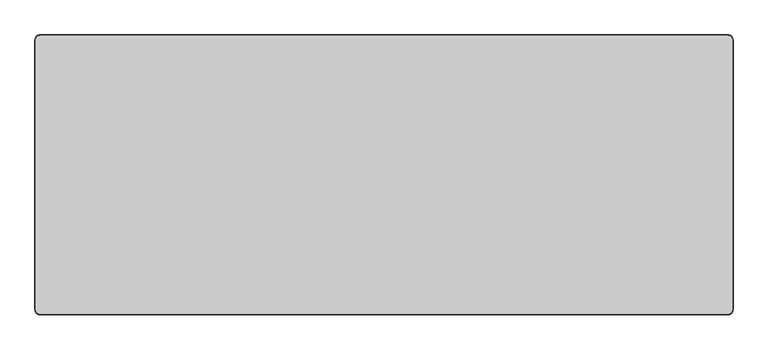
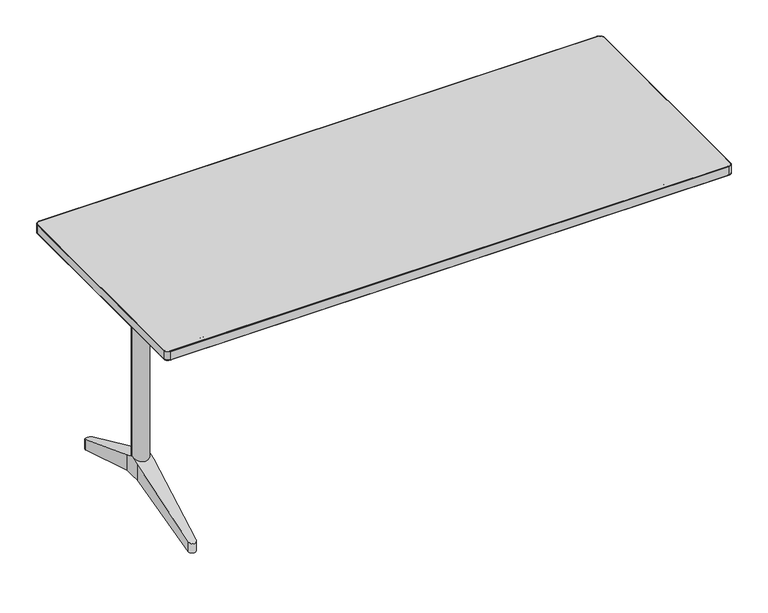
"""IFC4 building model written with IfcOpenShell, lengths in millimetres: furniture geometry."""

from ifc_helpers import new_model, si_unit, point, frame, frame_2d, origin, place, context, project, spatial, polyline, circle_curve, ellipse_curve, trimmed, segment, composite_curve, outline, extrude, faceted_brep, source, transform, mapped, element, save
from ifc_brep_helpers import plane_surface, cylinder_surface, revolved_surface, advanced_brep


def furniture_c3fd8c45(model_context):
    return source(origin(), model_context, "Body", "SolidModel", [
        advanced_brep(
        [(-632.7657234, 148.4511551, 210.360006), (-632.7657234, 125.9511544, 219.9000124), (-632.7657234, 103.4511538, 210.360006), (-632.7657234, 103.4511538, 165.9000199), (-632.7657234, 125.9511544, 165.9000199), (-632.7657234, 148.4511551, 165.9000199), (-677.7657383, 148.4511551, 165.9000199), (-677.7657383, 125.9511544, 165.9000199), (-677.7657383, 103.4511538, 165.9000199), (-677.7657383, 103.4511538, 210.360006), (-677.7657383, 125.9511544, 219.9000124), (-677.7657383, 148.4511551, 210.360006), (-645.227182, -113.0675149, 88.8098467), (-665.3042073, -113.0675149, 88.8098467), (-645.2821683, -114.0242798, 118.1504308), (-665.2492204, -114.0242831, 118.1504294), (-645.2821683, -114.0242798, 88.8098467), (-665.2492204, -114.0242831, 88.8098467), (-645.227182, 364.9698238, 88.8098467), (-665.3042073, 364.9698238, 88.8098467), (-665.2492204, 365.926592, 88.8098467), (-645.2821683, 365.9265887, 88.8098467), (-645.2821683, 365.9265887, 118.1504308), (-665.2492204, 365.926592, 118.1504294)],
        [
            (0, 1),
            (1, 2),
            (2, 3),
            (3, 4),
            (4, 5),
            (5, 0),
            (6, 7),
            (7, 8),
            (8, 9),
            (9, 10),
            (10, 11),
            (11, 6),
            (3, 8),
            (7, 4),
            (6, 5),
            (12, 13),
            (13, 8),
            (3, 12),
            (14, 2),
            (1, 10),
            (9, 15),
            (15, 14, ellipse_curve(frame((-655.2656945, -113.4505156, 118.3937069), z_axis=(0.0, -0.39036065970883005, 0.9206620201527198), x_axis=(0.0, -0.9206620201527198, -0.3903606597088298)), 10.8617492, 10.0)),
            (12, 16),
            (16, 17, circle_curve(frame((-655.2656945, -113.4505156, 88.8098467), z_axis=(0.0, 0.0, -1.0), x_axis=(1.0, 0.0, 0.0)), 10.0)),
            (17, 13),
            (18, 19),
            (19, 20),
            (20, 21, circle_curve(frame((-655.2656945, 365.3528245, 88.8098467), z_axis=(0.0, 0.0, -1.0), x_axis=(1.0, 0.0, 0.0)), 10.0)),
            (21, 18),
            (0, 22),
            (22, 23, ellipse_curve(frame((-655.2656945, 365.3528245, 118.3937069), z_axis=(0.0, 0.39036065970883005, 0.9206620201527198), x_axis=(0.0, 0.9206620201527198, -0.3903606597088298)), 10.8617492, 10.0)),
            (23, 11),
            (18, 5),
            (6, 19),
            (21, 22),
            (23, 20),
            (14, 16),
            (15, 17),
        ],
        [
            plane_surface(frame((-632.7657234, 148.4511551, 210.360006), z_axis=(1.0, 0.0, 0.0), x_axis=(0.0, -0.9206619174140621, 0.3903609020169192))),
            plane_surface(frame((-677.7657383, 148.4511551, 210.360006), z_axis=(-1.0, 0.0, 0.0), x_axis=(0.0, 0.9206619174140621, -0.3903609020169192))),
            plane_surface(frame((-632.7657234, 103.4511538, 165.9000199), z_axis=(0.0, 0.0, -1.0), x_axis=(-1.0, 0.0, 0.0))),
            plane_surface(frame((-632.7657234, 125.9511544, 165.9000199), z_axis=(0.0, 0.0, -1.0), x_axis=(-1.0, 0.0, 0.0))),
            plane_surface(frame((-632.7657234, -113.0675149, 88.8098467), z_axis=(0.0, 0.33541814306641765, -0.9420693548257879), x_axis=(-1.0, 0.0, 0.0))),
            plane_surface(frame((-632.7657234, 103.4511538, 210.360006), z_axis=(0.0, -0.39036065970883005, 0.9206620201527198), x_axis=(-1.0, 0.0, 0.0))),
            plane_surface(frame((-632.7657234, -124.5346363, 88.8098467), z_axis=(0.0, 0.0, -1.0), x_axis=(-1.0, 0.0, 0.0))),
            plane_surface(frame((-632.7657234, 364.9698238, 88.8098467), z_axis=(0.0, 0.0, -1.0), x_axis=(-1.0, 0.0, 0.0))),
            plane_surface(frame((-632.7657234, 376.4369452, 113.6940401), z_axis=(0.0, 0.39036065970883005, 0.9206620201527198), x_axis=(-1.0, 0.0, 0.0))),
            plane_surface(frame((-632.7657234, 148.4511551, 165.9000199), z_axis=(0.0, -0.33541814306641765, -0.9420693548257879), x_axis=(-1.0, 0.0, 0.0))),
            plane_surface(frame((-645.2821683, 365.9265887, 234.8098558), z_axis=(0.9983526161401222, 0.0573764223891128, 0.0), x_axis=(0.0, 0.0, -1.0))),
            plane_surface(frame((-677.7478455, 148.4511551, 234.8098558), z_axis=(-0.9983525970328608, 0.0573767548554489, 0.0), x_axis=(0.0, 0.0, -1.0))),
            cylinder_surface(frame((-655.2656945, 365.3528245, 75.8098498), z_axis=(0.0, 0.0, -1.0), x_axis=(1.0, 0.0, 0.0)), 10.0),
            plane_surface(frame((-632.7836161, 103.4511538, 234.8098558), z_axis=(0.9983526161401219, -0.05737642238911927, 0.0), x_axis=(0.0, 0.0, -1.0))),
            cylinder_surface(frame((-655.2656945, -113.4505156, -14.1901527), z_axis=(0.0, 0.0, -1.0), x_axis=(1.0, 0.0, 0.0)), 10.0),
            plane_surface(frame((-665.2492204, -114.0242831, 234.8098558), z_axis=(-0.9983525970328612, -0.05737675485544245, 0.0), x_axis=(0.0, 0.0, -1.0))),
        ],
        [
            (0, [[1, 2, 3, 4, 5, 6]]),
            (1, [[7, 8, 9, 10, 11, 12]]),
            (2, [[-4, 13, -8, 14]]),
            (3, [[-5, -14, -7, 15]]),
            (4, [[16, 17, -13, 18]]),
            (5, [[19, -2, 20, -10, 21, 22]]),
            (6, [[-16, 23, 24, 25]]),
            (7, [[26, 27, 28, 29]]),
            (8, [[30, 31, 32, -11, -20, -1]]),
            (9, [[-26, 33, -15, 34]]),
            (10, [[35, -30, -6, -33, -29]]),
            (11, [[36, -27, -34, -12, -32]]),
            (12, [[-35, -28, -36, -31]]),
            (13, [[37, -23, -18, -3, -19]]),
            (14, [[-37, -22, 38, -24]]),
            (15, [[-38, -21, -9, -17, -25]]),
        ],
    ),
        extrude(outline(composite_curve([segment(trimmed(circle_curve(frame_2d((-655.2657309, 125.9511544)), 22.0), [point((-677.2657309, 125.9511544))], [point((-633.2657309, 125.9511544))], False, "CARTESIAN"), True, "CONTINUOUS"), segment(trimmed(circle_curve(frame_2d((-655.2657309, 125.9511544)), 22.0), [point((-633.2657309, 125.9511544))], [point((-677.2657309, 125.9511544))], False, "CARTESIAN"), True, "CONTINUOUS")], self_intersect=False)), frame((0.0, 0.0, 165.9000199), z_axis=(0.0, 0.0, 1.0), x_axis=(1.0, 0.0, 0.0)), (0.0, 0.0, 1.0), 509.3499944),
        extrude(outline(polyline([(-687.0000109, 327.7511544), (-627.0000395, 327.7511544), (-627.0000395, -75.8488456), (-687.0000109, -75.8488456), (-687.0000109, 327.7511544)]), holes=[polyline([(-629.0000628, 65.9511581), (-629.0000628, 175.9511571), (-684.9999876, 175.9511571), (-684.9999876, 65.9511581), (-629.0000628, 65.9511581)])]), frame((0.0, 0.0, 684.9999762), z_axis=(0.0, 0.0, 1.0), x_axis=(1.0, 0.0, 0.0)), (0.0, 0.0, 1.0), 20.2500238),
        faceted_brep([(687.0000109, 175.9511571, 705.25), (684.9999876, 175.9511571, 705.25), (684.9999876, 65.9511581, 705.25), (687.0000109, 65.9511581, 705.25), (687.0000109, 175.9511571, 684.9999762), (687.0000109, 65.9511581, 684.9999762), (684.9999876, 65.9511581, 684.9999762), (684.9999876, 175.9511571, 684.9999762), (687.0000109, 65.9511581, 705.0), (687.0000109, -75.8488456, 705.0), (687.0000109, -75.8488456, 685.2499762), (687.0000109, 65.9511581, 685.2499762), (687.0000109, 175.9511571, 685.2499762), (687.0000109, 327.7511544, 685.2499762), (687.0000109, 327.7511544, 705.0), (687.0000109, 175.9511571, 705.0), (684.9999876, 65.9511581, 705.0), (684.9999876, 65.9511581, 685.2499762), (684.9999876, 175.9511571, 705.0), (684.9999876, 175.9511571, 685.2499762), (627.0000395, 327.7511544, 705.0), (627.0000395, 175.9511571, 705.0), (629.0000628, 175.9511571, 705.0), (627.0000395, 65.9511581, 705.0), (627.0000395, -75.8488456, 705.0), (629.0000628, 65.9511581, 705.0), (627.0000395, -75.8488456, 685.2499762), (627.0000395, 65.9511581, 685.2499762), (629.0000628, 65.9511581, 685.2499762), (627.0000395, 175.9511571, 685.2499762), (627.0000395, 327.7511544, 685.2499762), (629.0000628, 175.9511571, 685.2499762), (627.0000395, 175.9511571, 684.9999762), (627.0000395, 65.9511581, 684.9999762), (627.0000395, 65.9511581, 705.25), (627.0000395, 175.9511571, 705.25), (629.0000628, 65.9511581, 705.25), (629.0000628, 175.9511571, 705.25), (629.0000628, 175.9511571, 684.9999762), (629.0000628, 65.9511581, 684.9999762)], [[[0, 1, 2, 3]], [[4, 5, 6, 7]], [[0, 3, 8, 9, 10, 11, 5, 4, 12, 13, 14, 15]], [[3, 2, 16, 8]], [[6, 5, 11, 17]], [[1, 0, 15, 18]], [[4, 7, 19, 12]], [[2, 1, 18, 19, 7, 6, 17, 16]], [[15, 14, 20, 21, 22, 18]], [[23, 24, 9, 8, 16, 25]], [[11, 10, 26, 27, 28, 17]], [[29, 30, 13, 12, 19, 31]], [[20, 14, 13, 30]], [[21, 20, 30, 29, 32, 33, 27, 26, 24, 23, 34, 35]], [[9, 24, 26, 10]], [[16, 17, 28, 25]], [[19, 18, 22, 31]], [[35, 34, 36, 37]], [[32, 38, 39, 33]], [[36, 34, 23, 25]], [[33, 39, 28, 27]], [[35, 37, 22, 21]], [[38, 32, 29, 31]], [[37, 36, 25, 28, 39, 38, 31, 22]]]),
        extrude(outline(polyline([(-632.7657234, 75.9511563), (-677.7657383, 75.9511563), (-677.7657383, 155.951156), (-632.7657234, 155.951156), (-632.7657234, 75.9511563)])), frame((0.0, 0.0, 675.2500143), z_axis=(0.0, 0.0, 1.0), x_axis=(1.0, 0.0, 0.0)), (0.0, 0.0, 1.0), 29.9999857),
        extrude(outline(polyline([(632.7657234, 75.9511563), (632.7657234, 155.951156), (677.7657383, 155.951156), (677.7657383, 75.9511563), (632.7657234, 75.9511563)])), frame((0.0, 0.0, 675.2500143), z_axis=(0.0, 0.0, 1.0), x_axis=(1.0, 0.0, 0.0)), (0.0, 0.0, 1.0), 29.9999857),
        extrude(outline(composite_curve([segment(trimmed(circle_curve(frame_2d((-655.2657309, 125.9511544)), 22.0), [point((-641.9334407, 108.4511533))], [point((-641.9334407, 143.4511556))], True, "CARTESIAN"), True, "CONTINUOUS"), segment(polyline([(-641.9334407, 143.4511556), (641.9334407, 143.4511556)]), True, "CONTINUOUS"), segment(trimmed(circle_curve(frame_2d((655.2657309, 125.9511544)), 22.0), [point((641.9334407, 143.4511556))], [point((641.9334407, 108.4511533))], True, "CARTESIAN"), True, "CONTINUOUS"), segment(polyline([(641.9334407, 108.4511533), (-641.9334407, 108.4511533)]), True, "CONTINUOUS")], self_intersect=False)), frame((0.0, 0.0, 625.2500143), z_axis=(0.0, 0.0, 1.0), x_axis=(1.0, 0.0, 0.0)), (0.0, 0.0, 1.0), 50.0),
        advanced_brep(
        [(-627.0000395, -98.8488456, 676.6414874), (-627.0000395, -98.8488456, 696.6414874), (627.0000395, -98.8488456, 676.6414874), (627.0000395, -98.8488456, 696.6414874), (-619.9107653, -98.8488456, 676.6414874), (-618.463829, -98.8488456, 696.6414874), (-564.9107794, -98.8488456, 668.641467), (-563.4638431, -98.8488456, 688.641467), (564.910768, -98.8488456, 668.641467), (563.4638316, -98.8488456, 688.641467), (619.9107539, -98.8488456, 676.6414874), (618.4638175, -98.8488456, 696.6414874)],
        [
            (0, 1, circle_curve(frame((-627.0000395, -98.8488456, 686.6414874), z_axis=(-1.0, 0.0, 0.0), x_axis=(0.0, 0.0, 1.0)), 10.0)),
            (1, 0, circle_curve(frame((-627.0000395, -98.8488456, 686.6414874), z_axis=(-1.0, 0.0, 0.0), x_axis=(0.0, 0.0, 1.0)), 10.0)),
            (2, 3, circle_curve(frame((627.0000395, -98.8488456, 686.6414874), z_axis=(1.0, 0.0, 0.0), x_axis=(0.0, 0.0, 1.0)), 10.0)),
            (3, 2, circle_curve(frame((627.0000395, -98.8488456, 686.6414874), z_axis=(1.0, 0.0, 0.0), x_axis=(0.0, 0.0, 1.0)), 10.0)),
            (0, 4),
            (4, 5, ellipse_curve(frame((-619.1872971, -98.8488456, 686.6414874), z_axis=(-0.9973931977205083, 0.0, 0.07215822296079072), x_axis=(-0.07215822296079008, 0.0, -0.9973931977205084)), 10.0261362, 10.0)),
            (5, 1),
            (5, 4, ellipse_curve(frame((-619.1872971, -98.8488456, 686.6414874), z_axis=(-0.9973931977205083, 0.0, 0.07215822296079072), x_axis=(-0.07215822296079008, 0.0, -0.9973931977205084)), 10.0261362, 10.0)),
            (4, 6),
            (6, 7, ellipse_curve(frame((-564.1873113, -98.8488456, 678.641467), z_axis=(-0.9973931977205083, 0.0, 0.07215822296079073), x_axis=(0.07215822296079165, 0.0, 0.9973931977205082)), 10.0261362, 10.0)),
            (7, 5),
            (7, 6, ellipse_curve(frame((-564.1873113, -98.8488456, 678.641467), z_axis=(-0.9973931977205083, 0.0, 0.07215822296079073), x_axis=(0.07215822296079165, 0.0, 0.9973931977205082)), 10.0261362, 10.0)),
            (6, 8),
            (8, 9, ellipse_curve(frame((564.1872998, -98.8488456, 678.641467), z_axis=(-0.9973931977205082, 0.0, -0.07215822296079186), x_axis=(-0.07215822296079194, 0.0, 0.9973931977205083)), 10.0261362, 10.0)),
            (9, 7),
            (9, 8, ellipse_curve(frame((564.1872998, -98.8488456, 678.641467), z_axis=(-0.9973931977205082, 0.0, -0.07215822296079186), x_axis=(-0.07215822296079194, 0.0, 0.9973931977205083)), 10.0261362, 10.0)),
            (8, 10),
            (10, 11, ellipse_curve(frame((619.1872857, -98.8488456, 686.6414874), z_axis=(-0.9973931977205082, 0.0, -0.07215822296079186), x_axis=(0.07215822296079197, 0.0, -0.9973931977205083)), 10.0261362, 10.0)),
            (11, 9),
            (11, 10, ellipse_curve(frame((619.1872857, -98.8488456, 686.6414874), z_axis=(-0.9973931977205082, 0.0, -0.07215822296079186), x_axis=(0.07215822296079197, 0.0, -0.9973931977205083)), 10.0261362, 10.0)),
            (10, 2),
            (3, 11),
        ],
        [
            plane_surface(frame((-627.0000395, -75.8488456, 716.8750406), z_axis=(-1.0, 0.0, 0.0), x_axis=(0.0, -1.0, 0.0))),
            plane_surface(frame((627.0000395, -75.8488456, 716.8750406), z_axis=(1.0, 0.0, 0.0), x_axis=(0.0, -1.0, 0.0))),
            cylinder_surface(frame((-627.0000395, -98.8488456, 686.6414874), z_axis=(-1.0, 0.0, 0.0), x_axis=(0.0, 0.0, 1.0)), 10.0),
            cylinder_surface(frame((-621.3518208, -98.8488456, 686.9563281), z_axis=(-0.9895863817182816, 0.0, 0.14394024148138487), x_axis=(0.14394024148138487, 0.0, 0.9895863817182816)), 10.0),
            cylinder_surface(frame((-562.0000099, -98.8488456, 678.641467), z_axis=(-1.0, 0.0, 0.0), x_axis=(0.0, 0.0, 1.0)), 10.0),
            cylinder_surface(frame((566.3518234, -98.8488456, 678.9563077), z_axis=(-0.9895863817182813, 0.0, -0.1439402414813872), x_axis=(-0.1439402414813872, 0.0, 0.9895863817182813)), 10.0),
            cylinder_surface(frame((616.9999844, -98.8488456, 686.6414874), z_axis=(-1.0, 0.0, 0.0), x_axis=(0.0, 0.0, 1.0)), 10.0),
        ],
        [
            (0, [[1, 2]]),
            (1, [[3, 4]]),
            (2, [[-1, 5, 6, 7]]),
            (2, [[-2, -7, 8, -5]]),
            (3, [[-6, 9, 10, 11]]),
            (3, [[-8, -11, 12, -9]]),
            (4, [[-10, 13, 14, 15]]),
            (4, [[-12, -15, 16, -13]]),
            (5, [[-14, 17, 18, 19]]),
            (5, [[-16, -19, 20, -17]]),
            (6, [[-18, 21, -4, 22]]),
            (6, [[-20, -22, -3, -21]]),
        ],
    ),
        extrude(outline(composite_curve([segment(trimmed(circle_curve(frame_2d((-752.0, 420.7511544)), 10.0), [point((-762.0, 420.7511544))], [point((-752.0, 430.7511544))], False, "CARTESIAN"), True, "CONTINUOUS"), segment(polyline([(-752.0, 430.7511544), (752.0, 430.7511544)]), True, "CONTINUOUS"), segment(trimmed(circle_curve(frame_2d((752.0, 420.7511544)), 10.0), [point((752.0, 430.7511544))], [point((762.0, 420.7511544))], False, "CARTESIAN"), True, "CONTINUOUS"), segment(polyline([(762.0, 420.7511544), (762.0, -168.8488456)]), True, "CONTINUOUS"), segment(trimmed(circle_curve(frame_2d((752.0, -168.8488456)), 10.0), [point((762.0, -168.8488456))], [point((752.0, -178.8488456))], False, "CARTESIAN"), True, "CONTINUOUS"), segment(polyline([(752.0, -178.8488456), (-752.0, -178.8488456)]), True, "CONTINUOUS"), segment(trimmed(circle_curve(frame_2d((-752.0, -168.8488456)), 10.0), [point((-752.0, -178.8488456))], [point((-762.0, -168.8488456))], False, "CARTESIAN"), True, "CONTINUOUS"), segment(polyline([(-762.0, -168.8488456), (-762.0, 420.7511544)]), True, "CONTINUOUS")], self_intersect=False)), frame((0.0, 0.0, 705.25), z_axis=(0.0, 0.0, 1.0), x_axis=(1.0, 0.0, 0.0)), (0.0, 0.0, 1.0), 25.0),
        advanced_brep(
        [(762.0, -168.8488456, 705.25), (752.0, -178.8488456, 705.25), (752.0, -178.8488456, 730.25), (762.0, -168.8488456, 730.25), (762.0, 420.7511544, 730.25), (762.0, 420.7511544, 705.25), (752.0, 430.7511544, 705.25), (752.0, 430.7511544, 730.25), (-752.0, 430.7511544, 730.25), (-752.0, 430.7511544, 705.25), (-762.0, 420.7511544, 705.25), (-762.0, 420.7511544, 730.25), (-762.0, -168.8488456, 730.25), (-762.0, -168.8488456, 705.25), (-752.0, -178.8488456, 705.25), (-752.0, -178.8488456, 730.25), (763.0, -168.8488456, 706.25), (752.0, -179.8488456, 706.25), (763.0, -168.8488456, 729.25), (752.0, -179.8488456, 729.25), (763.0, 420.7511544, 706.25), (763.0, 420.7511544, 729.25), (752.0, 431.7511544, 706.25), (752.0, 431.7511544, 729.25), (-752.0, 431.7511544, 706.25), (-752.0, 431.7511544, 729.25), (-763.0, 420.7511544, 706.25), (-763.0, 420.7511544, 729.25), (-763.0, -168.8488456, 706.25), (-763.0, -168.8488456, 729.25), (-752.0, -179.8488456, 706.25), (-752.0, -179.8488456, 729.25)],
        [
            (0, 1, circle_curve(frame((752.0, -168.8488456, 705.25), z_axis=(0.0, 0.0, -1.0), x_axis=(0.0, -1.0, 0.0)), 10.0)),
            (1, 2),
            (2, 3, circle_curve(frame((752.0, -168.8488456, 730.25), z_axis=(0.0, 0.0, 1.0), x_axis=(0.0, -1.0, 0.0)), 10.0)),
            (3, 0),
            (3, 4),
            (4, 5),
            (5, 0),
            (6, 5, circle_curve(frame((752.0, 420.7511544, 705.25), z_axis=(0.0, 0.0, -1.0), x_axis=(1.0, 0.0, 0.0)), 10.0)),
            (4, 7, circle_curve(frame((752.0, 420.7511544, 730.25), z_axis=(0.0, 0.0, 1.0), x_axis=(1.0, 0.0, 0.0)), 10.0)),
            (7, 6),
            (7, 8),
            (8, 9),
            (9, 6),
            (10, 9, circle_curve(frame((-752.0, 420.7511544, 705.25), z_axis=(0.0, 0.0, -1.0), x_axis=(0.0, 1.0, 0.0)), 10.0)),
            (8, 11, circle_curve(frame((-752.0, 420.7511544, 730.25), z_axis=(0.0, 0.0, 1.0), x_axis=(0.0, 1.0, 0.0)), 10.0)),
            (11, 10),
            (11, 12),
            (12, 13),
            (13, 10),
            (14, 13, circle_curve(frame((-752.0, -168.8488456, 705.25), z_axis=(0.0, 0.0, -1.0), x_axis=(-1.0, 0.0, 0.0)), 10.0)),
            (12, 15, circle_curve(frame((-752.0, -168.8488456, 730.25), z_axis=(0.0, 0.0, 1.0), x_axis=(-1.0, 0.0, 0.0)), 10.0)),
            (15, 14),
            (15, 2),
            (1, 14),
            (16, 17, circle_curve(frame((752.0, -168.8488456, 706.25), z_axis=(0.0, 0.0, -1.0), x_axis=(0.0, -1.0, 0.0)), 11.0)),
            (17, 1, circle_curve(frame((752.0, -178.8488456, 706.25), z_axis=(1.0, 0.0, 0.0), x_axis=(0.0, 1.0, 0.0)), 1.0)),
            (0, 16, circle_curve(frame((762.0, -168.8488456, 706.25), z_axis=(0.0, -1.0, 0.0), x_axis=(-1.0, 0.0, 0.0)), 1.0)),
            (18, 19, circle_curve(frame((752.0, -168.8488456, 729.25), z_axis=(0.0, 0.0, -1.0), x_axis=(0.0, -1.0, 0.0)), 11.0)),
            (19, 17),
            (16, 18),
            (2, 19, circle_curve(frame((752.0, -178.8488456, 729.25), z_axis=(1.0, 0.0, 0.0), x_axis=(0.0, 1.0, 0.0)), 1.0)),
            (18, 3, circle_curve(frame((762.0, -168.8488456, 729.25), z_axis=(0.0, -1.0, 0.0), x_axis=(-1.0, 0.0, 0.0)), 1.0)),
            (5, 20, circle_curve(frame((762.0, 420.7511544, 706.25), z_axis=(0.0, -1.0, 0.0), x_axis=(-1.0, 0.0, 0.0)), 1.0)),
            (20, 16),
            (20, 21),
            (21, 18),
            (21, 4, circle_curve(frame((762.0, 420.7511544, 729.25), z_axis=(0.0, -1.0, 0.0), x_axis=(-1.0, 0.0, 0.0)), 1.0)),
            (22, 20, circle_curve(frame((752.0, 420.7511544, 706.25), z_axis=(0.0, 0.0, -1.0), x_axis=(1.0, 0.0, 0.0)), 11.0)),
            (6, 22, circle_curve(frame((752.0, 430.7511544, 706.25), z_axis=(1.0, 0.0, 0.0), x_axis=(0.0, -1.0, 0.0)), 1.0)),
            (23, 21, circle_curve(frame((752.0, 420.7511544, 729.25), z_axis=(0.0, 0.0, -1.0), x_axis=(1.0, 0.0, 0.0)), 11.0)),
            (22, 23),
            (23, 7, circle_curve(frame((752.0, 430.7511544, 729.25), z_axis=(1.0, 0.0, 0.0), x_axis=(0.0, -1.0, 0.0)), 1.0)),
            (9, 24, circle_curve(frame((-752.0, 430.7511544, 706.25), z_axis=(1.0, 0.0, 0.0), x_axis=(0.0, -1.0, 0.0)), 1.0)),
            (24, 22),
            (24, 25),
            (25, 23),
            (25, 8, circle_curve(frame((-752.0, 430.7511544, 729.25), z_axis=(1.0, 0.0, 0.0), x_axis=(0.0, -1.0, 0.0)), 1.0)),
            (26, 24, circle_curve(frame((-752.0, 420.7511544, 706.25), z_axis=(0.0, 0.0, -1.0), x_axis=(0.0, 1.0, 0.0)), 11.0)),
            (10, 26, circle_curve(frame((-762.0, 420.7511544, 706.25), z_axis=(0.0, 1.0, 0.0), x_axis=(1.0, 0.0, 0.0)), 1.0)),
            (27, 25, circle_curve(frame((-752.0, 420.7511544, 729.25), z_axis=(0.0, 0.0, -1.0), x_axis=(0.0, 1.0, 0.0)), 11.0)),
            (26, 27),
            (27, 11, circle_curve(frame((-762.0, 420.7511544, 729.25), z_axis=(0.0, 1.0, 0.0), x_axis=(1.0, 0.0, 0.0)), 1.0)),
            (13, 28, circle_curve(frame((-762.0, -168.8488456, 706.25), z_axis=(0.0, 1.0, 0.0), x_axis=(1.0, 0.0, 0.0)), 1.0)),
            (28, 26),
            (28, 29),
            (29, 27),
            (29, 12, circle_curve(frame((-762.0, -168.8488456, 729.25), z_axis=(0.0, 1.0, 0.0), x_axis=(1.0, 0.0, 0.0)), 1.0)),
            (30, 28, circle_curve(frame((-752.0, -168.8488456, 706.25), z_axis=(0.0, 0.0, -1.0), x_axis=(-1.0, 0.0, 0.0)), 11.0)),
            (14, 30, circle_curve(frame((-752.0, -178.8488456, 706.25), z_axis=(-1.0, 0.0, 0.0), x_axis=(0.0, 1.0, 0.0)), 1.0)),
            (31, 29, circle_curve(frame((-752.0, -168.8488456, 729.25), z_axis=(0.0, 0.0, -1.0), x_axis=(-1.0, 0.0, 0.0)), 11.0)),
            (30, 31),
            (31, 15, circle_curve(frame((-752.0, -178.8488456, 729.25), z_axis=(-1.0, 0.0, 0.0), x_axis=(0.0, 1.0, 0.0)), 1.0)),
            (17, 30),
            (19, 31),
        ],
        [
            revolved_surface(polyline([(752.0, -178.8488456, 730.25), (752.0, -178.8488456, 705.25)]), (752.0, -168.8488456, 730.25), (0.0, 0.0, 1.0)),
            plane_surface(frame((762.0, -168.8488456, 730.25), z_axis=(-1.0, 0.0, 0.0), x_axis=(0.0, 1.0, 0.0))),
            revolved_surface(polyline([(762.0, 420.7511544, 730.25), (762.0, 420.7511544, 705.25)]), (752.0, 420.7511544, 730.25), (0.0, 0.0, 1.0)),
            plane_surface(frame((752.0, 430.7511544, 730.25), z_axis=(0.0, -1.0, 0.0), x_axis=(-1.0, 0.0, 0.0))),
            revolved_surface(polyline([(-752.0, 430.7511544, 730.25), (-752.0, 430.7511544, 705.25)]), (-752.0, 420.7511544, 730.25), (0.0, 0.0, 1.0)),
            plane_surface(frame((-762.0, 420.7511544, 730.25), z_axis=(1.0, 0.0, 0.0), x_axis=(0.0, -1.0, 0.0))),
            revolved_surface(polyline([(-762.0, -168.8488456, 730.25), (-762.0, -168.8488456, 705.25)]), (-752.0, -168.8488456, 730.25), (0.0, 0.0, 1.0)),
            plane_surface(frame((-752.0, -178.8488456, 730.25), z_axis=(0.0, 1.0, 0.0), x_axis=(1.0, 0.0, 0.0))),
            revolved_surface(trimmed(ellipse_curve(frame((752.0, -178.8488456, 706.25), z_axis=(-1.0, 0.0, 0.0), x_axis=(0.0, 1.0, 0.0)), 1.0, 1.0), [point((752.0, -178.8488456, 705.25))], [point((752.0, -179.8488456, 706.25))], True, "CARTESIAN"), (752.0, -168.8488456, 730.25), (0.0, 0.0, 1.0)),
            cylinder_surface(frame((752.0, -168.8488456, 730.25), z_axis=(0.0, 0.0, 1.0), x_axis=(0.0, -1.0, 0.0)), 11.0),
            revolved_surface(trimmed(ellipse_curve(frame((752.0, -178.8488456, 729.25), z_axis=(-1.0, 0.0, 0.0), x_axis=(0.0, 1.0, 0.0)), 1.0, 1.0), [point((752.0, -179.8488456, 729.25))], [point((752.0, -178.8488456, 730.25))], True, "CARTESIAN"), (752.0, -168.8488456, 730.25), (0.0, 0.0, 1.0)),
            cylinder_surface(frame((762.0, -168.8488456, 706.25), z_axis=(0.0, -1.0, 0.0), x_axis=(-1.0, 0.0, 0.0)), 1.0),
            plane_surface(frame((763.0, -168.8488456, 706.25), z_axis=(1.0, 0.0, 0.0), x_axis=(0.0, 1.0, 0.0))),
            cylinder_surface(frame((762.0, -168.8488456, 729.25), z_axis=(0.0, -1.0, 0.0), x_axis=(-1.0, 0.0, 0.0)), 1.0),
            revolved_surface(trimmed(ellipse_curve(frame((762.0, 420.7511544, 706.25), z_axis=(0.0, -1.0, 0.0), x_axis=(-1.0, 0.0, 0.0)), 1.0, 1.0), [point((762.0, 420.7511544, 705.25))], [point((763.0, 420.7511544, 706.25))], True, "CARTESIAN"), (752.0, 420.7511544, 730.25), (0.0, 0.0, 1.0)),
            cylinder_surface(frame((752.0, 420.7511544, 730.25), z_axis=(0.0, 0.0, 1.0), x_axis=(1.0, 0.0, 0.0)), 11.0),
            revolved_surface(trimmed(ellipse_curve(frame((762.0, 420.7511544, 729.25), z_axis=(0.0, -1.0, 0.0), x_axis=(-1.0, 0.0, 0.0)), 1.0, 1.0), [point((763.0, 420.7511544, 729.25))], [point((762.0, 420.7511544, 730.25))], True, "CARTESIAN"), (752.0, 420.7511544, 730.25), (0.0, 0.0, 1.0)),
            cylinder_surface(frame((752.0, 430.7511544, 706.25), z_axis=(1.0, 0.0, 0.0), x_axis=(0.0, -1.0, 0.0)), 1.0),
            plane_surface(frame((752.0, 431.7511544, 706.25), z_axis=(0.0, 1.0, 0.0), x_axis=(-1.0, 0.0, 0.0))),
            cylinder_surface(frame((752.0, 430.7511544, 729.25), z_axis=(1.0, 0.0, 0.0), x_axis=(0.0, -1.0, 0.0)), 1.0),
            revolved_surface(trimmed(ellipse_curve(frame((-752.0, 430.7511544, 706.25), z_axis=(1.0, 0.0, 0.0), x_axis=(0.0, -1.0, 0.0)), 1.0, 1.0), [point((-752.0, 430.7511544, 705.25))], [point((-752.0, 431.7511544, 706.25))], True, "CARTESIAN"), (-752.0, 420.7511544, 730.25), (0.0, 0.0, 1.0)),
            cylinder_surface(frame((-752.0, 420.7511544, 730.25), z_axis=(0.0, 0.0, 1.0), x_axis=(0.0, 1.0, 0.0)), 11.0),
            revolved_surface(trimmed(ellipse_curve(frame((-752.0, 430.7511544, 729.25), z_axis=(1.0, 0.0, 0.0), x_axis=(0.0, -1.0, 0.0)), 1.0, 1.0), [point((-752.0, 431.7511544, 729.25))], [point((-752.0, 430.7511544, 730.25))], True, "CARTESIAN"), (-752.0, 420.7511544, 730.25), (0.0, 0.0, 1.0)),
            cylinder_surface(frame((-762.0, 420.7511544, 706.25), z_axis=(0.0, 1.0, 0.0), x_axis=(1.0, 0.0, 0.0)), 1.0),
            plane_surface(frame((-763.0, 420.7511544, 706.25), z_axis=(-1.0, 0.0, 0.0), x_axis=(0.0, -1.0, 0.0))),
            cylinder_surface(frame((-762.0, 420.7511544, 729.25), z_axis=(0.0, 1.0, 0.0), x_axis=(1.0, 0.0, 0.0)), 1.0),
            revolved_surface(trimmed(ellipse_curve(frame((-762.0, -168.8488456, 706.25), z_axis=(0.0, 1.0, 0.0), x_axis=(1.0, 0.0, 0.0)), 1.0, 1.0), [point((-762.0, -168.8488456, 705.25))], [point((-763.0, -168.8488456, 706.25))], True, "CARTESIAN"), (-752.0, -168.8488456, 730.25), (0.0, 0.0, 1.0)),
            cylinder_surface(frame((-752.0, -168.8488456, 730.25), z_axis=(0.0, 0.0, 1.0), x_axis=(-1.0, 0.0, 0.0)), 11.0),
            revolved_surface(trimmed(ellipse_curve(frame((-762.0, -168.8488456, 729.25), z_axis=(0.0, 1.0, 0.0), x_axis=(1.0, 0.0, 0.0)), 1.0, 1.0), [point((-763.0, -168.8488456, 729.25))], [point((-762.0, -168.8488456, 730.25))], True, "CARTESIAN"), (-752.0, -168.8488456, 730.25), (0.0, 0.0, 1.0)),
            cylinder_surface(frame((-752.0, -178.8488456, 706.25), z_axis=(-1.0, 0.0, 0.0), x_axis=(0.0, 1.0, 0.0)), 1.0),
            plane_surface(frame((-752.0, -179.8488456, 706.25), z_axis=(0.0, -1.0, 0.0), x_axis=(1.0, 0.0, 0.0))),
            cylinder_surface(frame((-752.0, -178.8488456, 729.25), z_axis=(-1.0, 0.0, 0.0), x_axis=(0.0, 1.0, 0.0)), 1.0),
        ],
        [
            (0, [[1, 2, 3, 4]]),
            (1, [[-4, 5, 6, 7]]),
            (2, [[8, -6, 9, 10]]),
            (3, [[-10, 11, 12, 13]]),
            (4, [[14, -12, 15, 16]]),
            (5, [[-16, 17, 18, 19]]),
            (6, [[20, -18, 21, 22]]),
            (7, [[-22, 23, -2, 24]]),
            (8, [[25, 26, -1, 27]]),
            (9, [[28, 29, -25, 30]]),
            (10, [[-3, 31, -28, 32]]),
            (11, [[-27, -7, 33, 34]]),
            (12, [[-30, -34, 35, 36]]),
            (13, [[-32, -36, 37, -5]]),
            (14, [[38, -33, -8, 39]]),
            (15, [[40, -35, -38, 41]]),
            (16, [[-9, -37, -40, 42]]),
            (17, [[-39, -13, 43, 44]]),
            (18, [[-41, -44, 45, 46]]),
            (19, [[-42, -46, 47, -11]]),
            (20, [[48, -43, -14, 49]]),
            (21, [[50, -45, -48, 51]]),
            (22, [[-15, -47, -50, 52]]),
            (23, [[-49, -19, 53, 54]]),
            (24, [[-51, -54, 55, 56]]),
            (25, [[-52, -56, 57, -17]]),
            (26, [[58, -53, -20, 59]]),
            (27, [[60, -55, -58, 61]]),
            (28, [[-21, -57, -60, 62]]),
            (29, [[-59, -24, -26, 63]]),
            (30, [[-61, -63, -29, 64]]),
            (31, [[-62, -64, -31, -23]]),
        ],
    ),
    ])


if __name__ == "__main__":
    model = new_model("IFC4")
    model_context = context("Model", 3, world=origin())
    ifc_project = project(units=[si_unit("LENGTHUNIT", "METRE", prefix="MILLI")], contexts=[model_context])
    site = spatial("IfcSite", under=ifc_project)
    building = spatial("IfcBuilding", under=site)
    placement = place(None, origin())
    furniture_shape = furniture_c3fd8c45(model_context)
    element("IfcFurniture", 1, ObjectType="Furniture_Wilkhahn_Timetable_612-51_Smart : 24\"W x 60\"L", at=placement, inside=building, context=model_context, shape_type="MappedRepresentation", body=[
        mapped(furniture_shape, transform((0.0, 0.0, 0.0), x_axis=(1.0, 0.0, 0.0), y_axis=(0.0, 1.0, 0.0), z_axis=(0.0, 0.0, 1.0))),
    ])
    save(model, "model.ifc")
